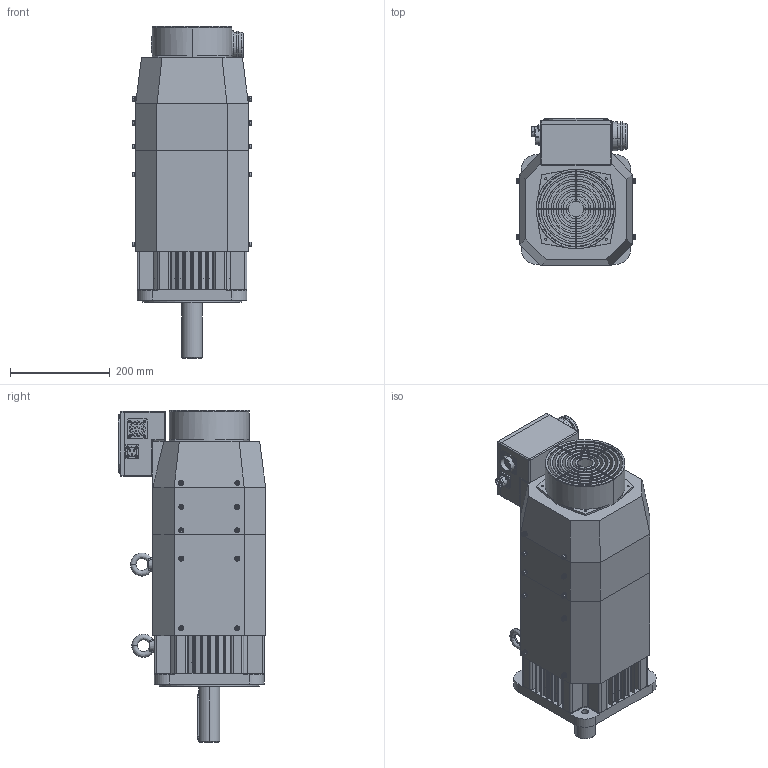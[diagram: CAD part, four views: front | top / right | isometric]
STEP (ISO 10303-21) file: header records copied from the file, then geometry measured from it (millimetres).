
FILE_DESCRIPTION (( 'STEP AP203' ), '1' );
FILE_NAME ('EMB-1AD(湍惕掅).STEP', '2020-04-17T06:28:54', ( '' ), ( '' ), 'SwSTEP 2.0', 'SolidWorks 2018', '' );
FILE_SCHEMA (( 'CONFIG_CONTROL_DESIGN' ));
Length unit declared in the file: millimetre
Products named in the file (1): EMB-1AD(湍惕掅)
Bounding box: 240.6 x 295 x 666 mm (x, y, z)
Volume: 14326975.7 mm3; surface area: 1777408.8 mm2
Topology: 109 solids, 110 shells, 2574 faces, 6181 edges, 3858 vertices
Faces by surface type: plane 1146, cylinder 958, cone 240, bspline 146, torus 76, sphere 8
Entity records: 81527 total; most frequent: CARTESIAN_POINT 21250, DIRECTION 13092, ORIENTED_EDGE 12090, EDGE_CURVE 6045, AXIS2_PLACEMENT_3D 5040, VERTEX_POINT 3858, LINE 3012, VECTOR 3012
